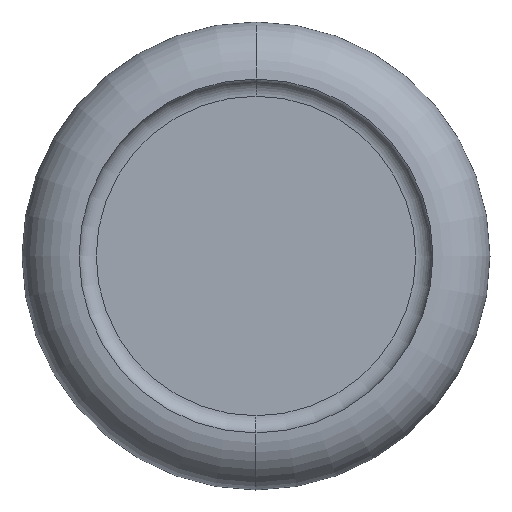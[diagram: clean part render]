
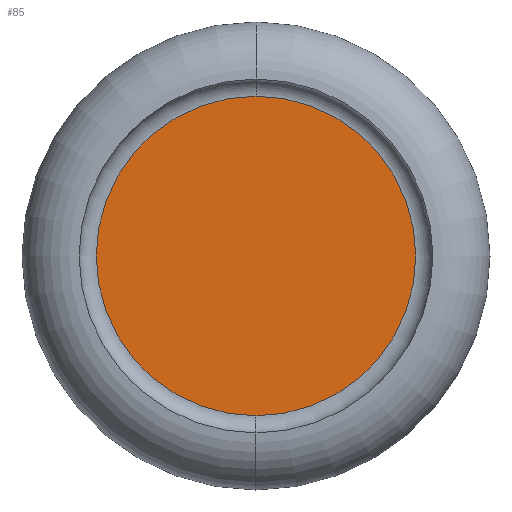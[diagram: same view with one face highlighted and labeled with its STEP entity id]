
A CAD part, front view. The second image highlights one B-rep face of the part: STEP entity #85.
In plain terms, the highlighted planar face has unit normal (0, -1, 0).
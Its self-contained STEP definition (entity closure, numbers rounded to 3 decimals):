
#85 = ADVANCED_FACE( '', ( #108 ), #109, .T. );
#108 = FACE_OUTER_BOUND( '', #131, .T. );
#109 = PLANE( '', #132 );
#131 = EDGE_LOOP( '', ( #212, #213, #214 ) );
#132 = AXIS2_PLACEMENT_3D( '', #215, #216, #217 );
#212 = ORIENTED_EDGE( '', *, *, #222, .T. );
#213 = ORIENTED_EDGE( '', *, *, #243, .T. );
#214 = ORIENTED_EDGE( '', *, *, #223, .T. );
#215 = CARTESIAN_POINT( '', ( -7., -2., 0. ) );
#216 = DIRECTION( '', ( 0., -1., 0. ) );
#217 = DIRECTION( '', ( -1., 0., 0. ) );
#222 = EDGE_CURVE( '', #253, #251, #254, .T. );
#223 = EDGE_CURVE( '', #245, #253, #255, .T. );
#243 = EDGE_CURVE( '', #251, #245, #287, .T. );
#245 = VERTEX_POINT( '', #289 );
#251 = VERTEX_POINT( '', #295 );
#253 = VERTEX_POINT( '', #297 );
#254 = CIRCLE( '', #298, 14. );
#255 = CIRCLE( '', #299, 14. );
#287 = CIRCLE( '', #335, 14. );
#289 = CARTESIAN_POINT( '', ( 0., -2., 14. ) );
#295 = CARTESIAN_POINT( '', ( 0., -2., -14. ) );
#297 = CARTESIAN_POINT( '', ( -14., -2., 0. ) );
#298 = AXIS2_PLACEMENT_3D( '', #348, #349, #350 );
#299 = AXIS2_PLACEMENT_3D( '', #351, #352, #353 );
#335 = AXIS2_PLACEMENT_3D( '', #403, #404, #405 );
#348 = CARTESIAN_POINT( '', ( 0., -2., 0. ) );
#349 = DIRECTION( '', ( 0., -1., 0. ) );
#350 = DIRECTION( '', ( -1., 0., 0. ) );
#351 = CARTESIAN_POINT( '', ( 0., -2., 0. ) );
#352 = DIRECTION( '', ( 0., -1., 0. ) );
#353 = DIRECTION( '', ( -1., 0., 0. ) );
#403 = CARTESIAN_POINT( '', ( 0., -2., 0. ) );
#404 = DIRECTION( '', ( 0., -1., 0. ) );
#405 = DIRECTION( '', ( -1., 0., 0. ) );
